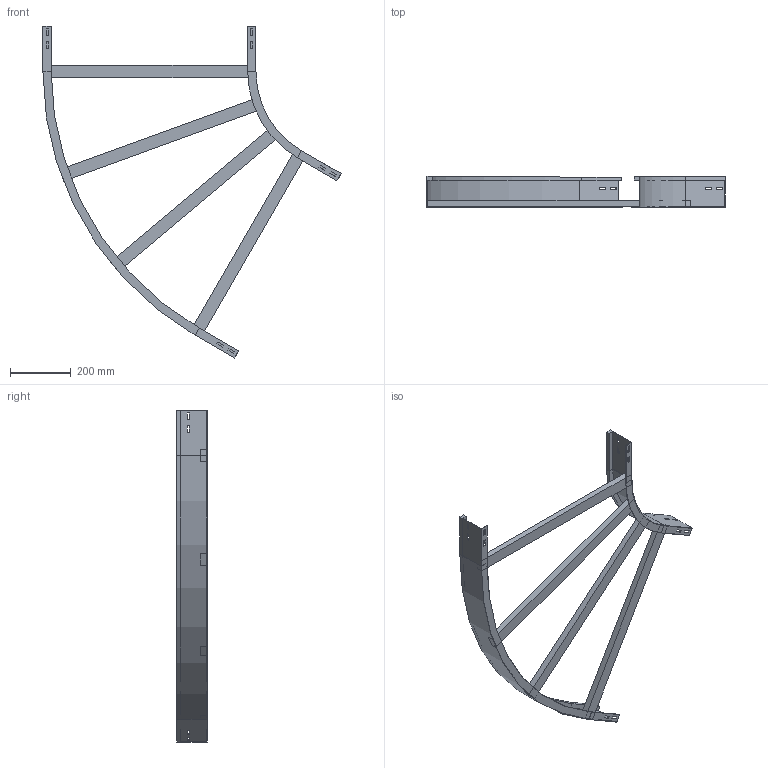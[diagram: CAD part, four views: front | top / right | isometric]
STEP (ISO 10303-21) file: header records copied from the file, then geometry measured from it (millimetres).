
FILE_DESCRIPTION (( 'STEP AP214' ), '1' );
FILE_NAME ('A2_13B3D700.step', '2025-02-21T15:17:56', ( '' ), ( '' ), 'SwSTEP 2.0', 'SolidWorks 2023', '' );
FILE_SCHEMA (( 'AUTOMOTIVE_DESIGN' ));
Length unit declared in the file: millimetre
Products named in the file (4): A2_13B3D700; A2_LONGH.INTERNO 60°_H100_R300; A2_LONGH.ESTERNO 60°_H100_R300+700; TRAVERSINO_700
Assembly tree (6 placements, depth 2):
  A2_13B3D700
    A2_LONGH.INTERNO 60°_H100_R300
    A2_LONGH.ESTERNO 60°_H100_R300+700
    TRAVERSINO_700  x4
Bounding box: 979.9 x 100 x 1091.03 mm (x, y, z)
Volume: 3117031.7 mm3; surface area: 902988 mm2
Topology: 6 solids, 6 shells, 140 faces, 352 edges, 224 vertices
Faces by surface type: plane 132, cylinder 8
Entity records: 3829 total; most frequent: CARTESIAN_POINT 647, ORIENTED_EDGE 632, DIRECTION 594, EDGE_CURVE 316, VECTOR 300, LINE 300, VERTEX_POINT 200, EDGE_LOOP 154
